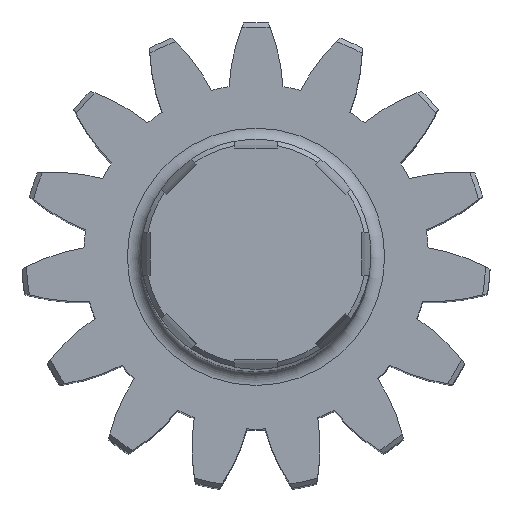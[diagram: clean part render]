
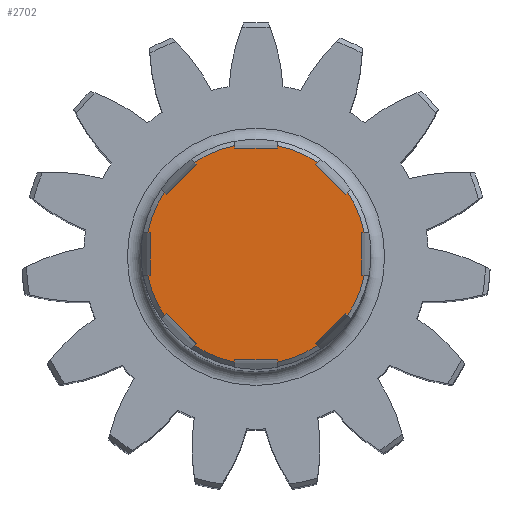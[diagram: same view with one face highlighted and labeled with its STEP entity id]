
A CAD part, top view. The second image highlights one B-rep face of the part: STEP entity #2702.
In plain terms, the highlighted planar face has unit normal (0, 0, 1).
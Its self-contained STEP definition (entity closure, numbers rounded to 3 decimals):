
#74=PLANE('',#3067);
#145=LINE('',#4832,#276);
#147=LINE('',#4844,#278);
#149=LINE('',#4847,#280);
#153=LINE('',#4875,#284);
#155=LINE('',#4887,#286);
#157=LINE('',#4890,#288);
#161=LINE('',#4918,#292);
#163=LINE('',#4930,#294);
#165=LINE('',#4933,#296);
#169=LINE('',#4961,#300);
#171=LINE('',#4973,#302);
#173=LINE('',#4976,#304);
#177=LINE('',#5004,#308);
#179=LINE('',#5016,#310);
#181=LINE('',#5019,#312);
#185=LINE('',#5047,#316);
#187=LINE('',#5059,#318);
#189=LINE('',#5062,#320);
#193=LINE('',#5090,#324);
#195=LINE('',#5102,#326);
#197=LINE('',#5105,#328);
#198=LINE('',#5142,#329);
#199=LINE('',#5144,#330);
#200=LINE('',#5145,#331);
#276=VECTOR('',#3646,10.);
#278=VECTOR('',#3650,10.);
#280=VECTOR('',#3654,10.);
#284=VECTOR('',#3666,10.);
#286=VECTOR('',#3670,10.);
#288=VECTOR('',#3674,10.);
#292=VECTOR('',#3686,10.);
#294=VECTOR('',#3690,10.);
#296=VECTOR('',#3694,10.);
#300=VECTOR('',#3706,10.);
#302=VECTOR('',#3710,10.);
#304=VECTOR('',#3714,10.);
#308=VECTOR('',#3726,10.);
#310=VECTOR('',#3730,10.);
#312=VECTOR('',#3734,10.);
#316=VECTOR('',#3746,10.);
#318=VECTOR('',#3750,10.);
#320=VECTOR('',#3754,10.);
#324=VECTOR('',#3766,10.);
#326=VECTOR('',#3770,10.);
#328=VECTOR('',#3774,10.);
#329=VECTOR('',#3825,10.);
#330=VECTOR('',#3826,10.);
#331=VECTOR('',#3827,10.);
#515=FACE_OUTER_BOUND('',#664,.T.);
#664=EDGE_LOOP('',(#2297,#2298,#2299,#2300,#2301,#2302,#2303,#2304,#2305,
#2306,#2307,#2308,#2309,#2310,#2311,#2312,#2313,#2314,#2315,#2316,#2317,
#2318,#2319,#2320,#2321,#2322,#2323,#2324,#2325,#2326,#2327,#2328));
#882=CIRCLE('',#3044,24.);
#884=CIRCLE('',#3047,24.);
#886=CIRCLE('',#3050,24.);
#888=CIRCLE('',#3053,24.);
#890=CIRCLE('',#3056,24.);
#892=CIRCLE('',#3059,24.);
#895=CIRCLE('',#3063,24.);
#896=CIRCLE('',#3065,24.);
#1184=VERTEX_POINT('',#4829);
#1185=VERTEX_POINT('',#4831);
#1187=VERTEX_POINT('',#4839);
#1188=VERTEX_POINT('',#4843);
#1195=VERTEX_POINT('',#4872);
#1196=VERTEX_POINT('',#4874);
#1198=VERTEX_POINT('',#4882);
#1199=VERTEX_POINT('',#4886);
#1206=VERTEX_POINT('',#4915);
#1207=VERTEX_POINT('',#4917);
#1209=VERTEX_POINT('',#4925);
#1210=VERTEX_POINT('',#4929);
#1217=VERTEX_POINT('',#4958);
#1218=VERTEX_POINT('',#4960);
#1220=VERTEX_POINT('',#4968);
#1221=VERTEX_POINT('',#4972);
#1228=VERTEX_POINT('',#5001);
#1229=VERTEX_POINT('',#5003);
#1231=VERTEX_POINT('',#5011);
#1232=VERTEX_POINT('',#5015);
#1239=VERTEX_POINT('',#5044);
#1240=VERTEX_POINT('',#5046);
#1242=VERTEX_POINT('',#5054);
#1243=VERTEX_POINT('',#5058);
#1250=VERTEX_POINT('',#5087);
#1251=VERTEX_POINT('',#5089);
#1253=VERTEX_POINT('',#5097);
#1254=VERTEX_POINT('',#5101);
#1255=VERTEX_POINT('',#5107);
#1258=VERTEX_POINT('',#5132);
#1259=VERTEX_POINT('',#5141);
#1260=VERTEX_POINT('',#5143);
#1562=EDGE_CURVE('',#1185,#1184,#145,.T.);
#1566=EDGE_CURVE('',#1188,#1187,#147,.T.);
#1568=EDGE_CURVE('',#1184,#1188,#149,.T.);
#1576=EDGE_CURVE('',#1196,#1195,#153,.T.);
#1580=EDGE_CURVE('',#1199,#1198,#155,.T.);
#1582=EDGE_CURVE('',#1195,#1199,#157,.T.);
#1590=EDGE_CURVE('',#1207,#1206,#161,.T.);
#1594=EDGE_CURVE('',#1210,#1209,#163,.T.);
#1596=EDGE_CURVE('',#1206,#1210,#165,.T.);
#1604=EDGE_CURVE('',#1218,#1217,#169,.T.);
#1608=EDGE_CURVE('',#1221,#1220,#171,.T.);
#1610=EDGE_CURVE('',#1217,#1221,#173,.T.);
#1618=EDGE_CURVE('',#1229,#1228,#177,.T.);
#1622=EDGE_CURVE('',#1232,#1231,#179,.T.);
#1624=EDGE_CURVE('',#1228,#1232,#181,.T.);
#1632=EDGE_CURVE('',#1240,#1239,#185,.T.);
#1636=EDGE_CURVE('',#1243,#1242,#187,.T.);
#1638=EDGE_CURVE('',#1239,#1243,#189,.T.);
#1646=EDGE_CURVE('',#1251,#1250,#193,.T.);
#1650=EDGE_CURVE('',#1254,#1253,#195,.T.);
#1652=EDGE_CURVE('',#1250,#1254,#197,.T.);
#1653=EDGE_CURVE('',#1251,#1255,#882,.T.);
#1656=EDGE_CURVE('',#1240,#1253,#884,.T.);
#1658=EDGE_CURVE('',#1229,#1242,#886,.T.);
#1660=EDGE_CURVE('',#1218,#1231,#888,.T.);
#1662=EDGE_CURVE('',#1207,#1220,#890,.T.);
#1664=EDGE_CURVE('',#1196,#1209,#892,.T.);
#1668=EDGE_CURVE('',#1258,#1187,#895,.T.);
#1669=EDGE_CURVE('',#1185,#1198,#896,.T.);
#1671=EDGE_CURVE('',#1258,#1259,#198,.T.);
#1672=EDGE_CURVE('',#1259,#1260,#199,.T.);
#1673=EDGE_CURVE('',#1260,#1255,#200,.T.);
#2297=ORIENTED_EDGE('',*,*,#1562,.T.);
#2298=ORIENTED_EDGE('',*,*,#1568,.T.);
#2299=ORIENTED_EDGE('',*,*,#1566,.T.);
#2300=ORIENTED_EDGE('',*,*,#1668,.F.);
#2301=ORIENTED_EDGE('',*,*,#1671,.T.);
#2302=ORIENTED_EDGE('',*,*,#1672,.T.);
#2303=ORIENTED_EDGE('',*,*,#1673,.T.);
#2304=ORIENTED_EDGE('',*,*,#1653,.F.);
#2305=ORIENTED_EDGE('',*,*,#1646,.T.);
#2306=ORIENTED_EDGE('',*,*,#1652,.T.);
#2307=ORIENTED_EDGE('',*,*,#1650,.T.);
#2308=ORIENTED_EDGE('',*,*,#1656,.F.);
#2309=ORIENTED_EDGE('',*,*,#1632,.T.);
#2310=ORIENTED_EDGE('',*,*,#1638,.T.);
#2311=ORIENTED_EDGE('',*,*,#1636,.T.);
#2312=ORIENTED_EDGE('',*,*,#1658,.F.);
#2313=ORIENTED_EDGE('',*,*,#1618,.T.);
#2314=ORIENTED_EDGE('',*,*,#1624,.T.);
#2315=ORIENTED_EDGE('',*,*,#1622,.T.);
#2316=ORIENTED_EDGE('',*,*,#1660,.F.);
#2317=ORIENTED_EDGE('',*,*,#1604,.T.);
#2318=ORIENTED_EDGE('',*,*,#1610,.T.);
#2319=ORIENTED_EDGE('',*,*,#1608,.T.);
#2320=ORIENTED_EDGE('',*,*,#1662,.F.);
#2321=ORIENTED_EDGE('',*,*,#1590,.T.);
#2322=ORIENTED_EDGE('',*,*,#1596,.T.);
#2323=ORIENTED_EDGE('',*,*,#1594,.T.);
#2324=ORIENTED_EDGE('',*,*,#1664,.F.);
#2325=ORIENTED_EDGE('',*,*,#1576,.T.);
#2326=ORIENTED_EDGE('',*,*,#1582,.T.);
#2327=ORIENTED_EDGE('',*,*,#1580,.T.);
#2328=ORIENTED_EDGE('',*,*,#1669,.F.);
#2702=ADVANCED_FACE('',(#515),#74,.T.);
#3044=AXIS2_PLACEMENT_3D('',#5108,#3777,#3778);
#3047=AXIS2_PLACEMENT_3D('',#5115,#3783,#3784);
#3050=AXIS2_PLACEMENT_3D('',#5118,#3789,#3790);
#3053=AXIS2_PLACEMENT_3D('',#5121,#3795,#3796);
#3056=AXIS2_PLACEMENT_3D('',#5124,#3801,#3802);
#3059=AXIS2_PLACEMENT_3D('',#5127,#3807,#3808);
#3063=AXIS2_PLACEMENT_3D('',#5136,#3815,#3816);
#3065=AXIS2_PLACEMENT_3D('',#5138,#3819,#3820);
#3067=AXIS2_PLACEMENT_3D('',#5140,#3823,#3824);
#3646=DIRECTION('',(-0.707,-0.707,0.));
#3650=DIRECTION('',(0.707,0.707,0.));
#3654=DIRECTION('',(-0.707,0.707,0.));
#3666=DIRECTION('',(-1.,0.,0.));
#3670=DIRECTION('',(1.,0.,0.));
#3674=DIRECTION('',(0.,1.,0.));
#3686=DIRECTION('',(-0.707,0.707,0.));
#3690=DIRECTION('',(0.707,-0.707,0.));
#3694=DIRECTION('',(0.707,0.707,0.));
#3706=DIRECTION('',(0.,1.,0.));
#3710=DIRECTION('',(0.,-1.,0.));
#3714=DIRECTION('',(1.,0.,0.));
#3726=DIRECTION('',(0.707,0.707,0.));
#3730=DIRECTION('',(-0.707,-0.707,0.));
#3734=DIRECTION('',(0.707,-0.707,0.));
#3746=DIRECTION('',(1.,0.,0.));
#3750=DIRECTION('',(-1.,0.,0.));
#3754=DIRECTION('',(0.,-1.,0.));
#3766=DIRECTION('',(0.707,-0.707,0.));
#3770=DIRECTION('',(-0.707,0.707,0.));
#3774=DIRECTION('',(-0.707,-0.707,0.));
#3777=DIRECTION('center_axis',(0.,0.,-1.));
#3778=DIRECTION('ref_axis',(-1.,0.,0.));
#3783=DIRECTION('center_axis',(0.,0.,-1.));
#3784=DIRECTION('ref_axis',(-1.,0.,0.));
#3789=DIRECTION('center_axis',(0.,0.,-1.));
#3790=DIRECTION('ref_axis',(-1.,0.,0.));
#3795=DIRECTION('center_axis',(0.,0.,-1.));
#3796=DIRECTION('ref_axis',(-1.,0.,0.));
#3801=DIRECTION('center_axis',(0.,0.,-1.));
#3802=DIRECTION('ref_axis',(-1.,0.,0.));
#3807=DIRECTION('center_axis',(0.,0.,-1.));
#3808=DIRECTION('ref_axis',(-1.,0.,0.));
#3815=DIRECTION('center_axis',(0.,0.,-1.));
#3816=DIRECTION('ref_axis',(-1.,0.,0.));
#3819=DIRECTION('center_axis',(0.,0.,-1.));
#3820=DIRECTION('ref_axis',(-1.,0.,0.));
#3823=DIRECTION('center_axis',(0.,0.,1.));
#3824=DIRECTION('ref_axis',(1.,0.,0.));
#3825=DIRECTION('',(0.,-1.,0.));
#3826=DIRECTION('',(-1.,0.,0.));
#3827=DIRECTION('',(0.,1.,0.));
#4829=CARTESIAN_POINT('',(19.548,12.979,514.));
#4831=CARTESIAN_POINT('',(19.934,13.366,514.));
#4832=CARTESIAN_POINT('',(12.83,6.262,514.));
#4839=CARTESIAN_POINT('',(13.366,19.934,514.));
#4843=CARTESIAN_POINT('',(12.979,19.548,514.));
#4844=CARTESIAN_POINT('',(4.848,11.416,514.));
#4847=CARTESIAN_POINT('',(17.906,14.621,514.));
#4872=CARTESIAN_POINT('',(23.,-4.645,514.));
#4874=CARTESIAN_POINT('',(23.546,-4.645,514.));
#4875=CARTESIAN_POINT('',(13.5,-4.645,514.));
#4882=CARTESIAN_POINT('',(23.546,4.645,514.));
#4886=CARTESIAN_POINT('',(23.,4.645,514.));
#4887=CARTESIAN_POINT('',(11.5,4.645,514.));
#4890=CARTESIAN_POINT('',(23.,-2.322,514.));
#4915=CARTESIAN_POINT('',(12.979,-19.548,514.));
#4917=CARTESIAN_POINT('',(13.366,-19.934,514.));
#4918=CARTESIAN_POINT('',(6.262,-12.83,514.));
#4925=CARTESIAN_POINT('',(19.934,-13.366,514.));
#4929=CARTESIAN_POINT('',(19.548,-12.979,514.));
#4930=CARTESIAN_POINT('',(11.416,-4.848,514.));
#4933=CARTESIAN_POINT('',(14.621,-17.906,514.));
#4958=CARTESIAN_POINT('',(-4.645,-23.,514.));
#4960=CARTESIAN_POINT('',(-4.645,-23.546,514.));
#4961=CARTESIAN_POINT('',(-4.645,-13.5,514.));
#4968=CARTESIAN_POINT('',(4.645,-23.546,514.));
#4972=CARTESIAN_POINT('',(4.645,-23.,514.));
#4973=CARTESIAN_POINT('',(4.645,-11.5,514.));
#4976=CARTESIAN_POINT('',(-2.322,-23.,514.));
#5001=CARTESIAN_POINT('',(-19.548,-12.979,514.));
#5003=CARTESIAN_POINT('',(-19.934,-13.366,514.));
#5004=CARTESIAN_POINT('',(-12.83,-6.262,514.));
#5011=CARTESIAN_POINT('',(-13.366,-19.934,514.));
#5015=CARTESIAN_POINT('',(-12.979,-19.548,514.));
#5016=CARTESIAN_POINT('',(-4.848,-11.416,514.));
#5019=CARTESIAN_POINT('',(-17.906,-14.621,514.));
#5044=CARTESIAN_POINT('',(-23.,4.645,514.));
#5046=CARTESIAN_POINT('',(-23.546,4.645,514.));
#5047=CARTESIAN_POINT('',(-13.5,4.645,514.));
#5054=CARTESIAN_POINT('',(-23.546,-4.645,514.));
#5058=CARTESIAN_POINT('',(-23.,-4.645,514.));
#5059=CARTESIAN_POINT('',(-11.5,-4.645,514.));
#5062=CARTESIAN_POINT('',(-23.,2.322,514.));
#5087=CARTESIAN_POINT('',(-12.979,19.548,514.));
#5089=CARTESIAN_POINT('',(-13.366,19.934,514.));
#5090=CARTESIAN_POINT('',(-6.262,12.83,514.));
#5097=CARTESIAN_POINT('',(-19.934,13.366,514.));
#5101=CARTESIAN_POINT('',(-19.548,12.979,514.));
#5102=CARTESIAN_POINT('',(-11.416,4.848,514.));
#5105=CARTESIAN_POINT('',(-14.621,17.906,514.));
#5107=CARTESIAN_POINT('',(-4.645,23.546,514.));
#5108=CARTESIAN_POINT('Origin',(0.,0.,514.));
#5115=CARTESIAN_POINT('Origin',(0.,0.,514.));
#5118=CARTESIAN_POINT('Origin',(0.,0.,514.));
#5121=CARTESIAN_POINT('Origin',(0.,0.,514.));
#5124=CARTESIAN_POINT('Origin',(0.,0.,514.));
#5127=CARTESIAN_POINT('Origin',(0.,0.,514.));
#5132=CARTESIAN_POINT('',(4.645,23.546,514.));
#5136=CARTESIAN_POINT('Origin',(0.,0.,514.));
#5138=CARTESIAN_POINT('Origin',(0.,0.,514.));
#5140=CARTESIAN_POINT('Origin',(0.,0.,514.));
#5141=CARTESIAN_POINT('',(4.645,23.,514.));
#5142=CARTESIAN_POINT('',(4.645,13.5,514.));
#5143=CARTESIAN_POINT('',(-4.645,23.,514.));
#5144=CARTESIAN_POINT('',(2.322,23.,514.));
#5145=CARTESIAN_POINT('',(-4.645,11.5,514.));
